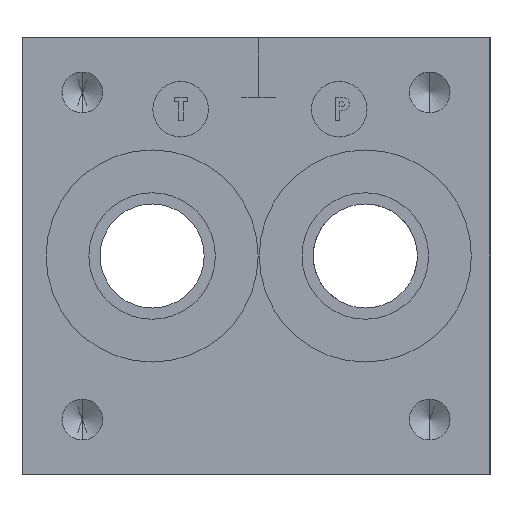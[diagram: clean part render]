
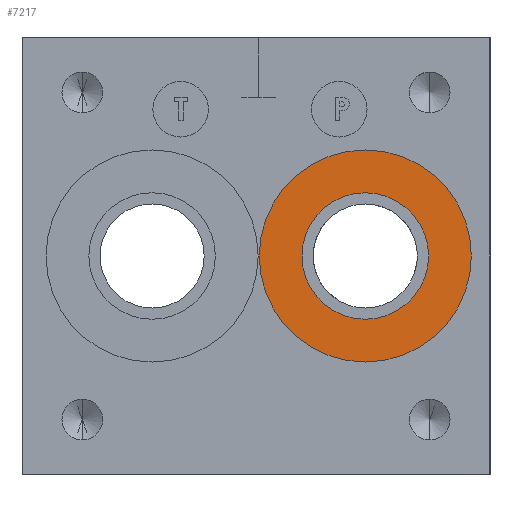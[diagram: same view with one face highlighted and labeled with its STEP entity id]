
A CAD part, left-side view. The second image highlights one B-rep face of the part: STEP entity #7217.
In plain terms, the highlighted planar face has unit normal (-1, 0, 0).
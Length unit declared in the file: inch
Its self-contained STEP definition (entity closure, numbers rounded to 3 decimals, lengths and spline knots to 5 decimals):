
#435 = EDGE_CURVE ( 'NONE', #41975, #33263, #39717, .T. ) ;
#1091 = DIRECTION ( 'NONE',  ( -1., 0., 0. ) ) ;
#1890 = CARTESIAN_POINT ( 'NONE',  ( 0.031, 0.786, 1.375 ) ) ;
#3209 = CARTESIAN_POINT ( 'NONE',  ( 0.031, 0.786, 2.0434 ) ) ;
#5194 = ORIENTED_EDGE ( 'NONE', *, *, #435, .T. ) ;
#7217 = ADVANCED_FACE ( 'NONE', ( #33914, #40741 ), #29587, .F. ) ;
#7311 = AXIS2_PLACEMENT_3D ( 'NONE', #10243, #10164, #10121 ) ;
#7664 = AXIS2_PLACEMENT_3D ( 'NONE', #21919, #1091, #25364 ) ;
#7776 = CARTESIAN_POINT ( 'NONE',  ( 0.031, 0.786, 0.97615 ) ) ;
#8168 = ORIENTED_EDGE ( 'NONE', *, *, #28351, .F. ) ;
#9539 = CARTESIAN_POINT ( 'NONE',  ( 0.031, 0.786, 1.375 ) ) ;
#10121 = DIRECTION ( 'NONE',  ( 0., 0., 1. ) ) ;
#10164 = DIRECTION ( 'NONE',  ( -1., 0., 0. ) ) ;
#10243 = CARTESIAN_POINT ( 'NONE',  ( 0.031, 0.786, 1.375 ) ) ;
#12439 = DIRECTION ( 'NONE',  ( 0., 0., -1. ) ) ;
#13085 = DIRECTION ( 'NONE',  ( 0., 0., 1. ) ) ;
#14871 = AXIS2_PLACEMENT_3D ( 'NONE', #1890, #33025, #12439 ) ;
#19748 = ORIENTED_EDGE ( 'NONE', *, *, #32101, .F. ) ;
#20113 = CARTESIAN_POINT ( 'NONE',  ( 0.031, 0.786, 1.375 ) ) ;
#21340 = CIRCLE ( 'NONE', #7664, 0.39885 ) ;
#21919 = CARTESIAN_POINT ( 'NONE',  ( 0.031, 0.786, 1.375 ) ) ;
#22612 = AXIS2_PLACEMENT_3D ( 'NONE', #20113, #43871, #23556 ) ;
#23556 = DIRECTION ( 'NONE',  ( 0., 0., 1. ) ) ;
#24329 = CARTESIAN_POINT ( 'NONE',  ( 0.031, 0.786, 0.7066 ) ) ;
#24848 = ORIENTED_EDGE ( 'NONE', *, *, #32951, .T. ) ;
#25364 = DIRECTION ( 'NONE',  ( 0., 0., 1. ) ) ;
#27965 = EDGE_LOOP ( 'NONE', ( #8168, #19748 ) ) ;
#28351 = EDGE_CURVE ( 'NONE', #43656, #32432, #38462, .T. ) ;
#29587 = PLANE ( 'NONE',  #14871 ) ;
#32101 = EDGE_CURVE ( 'NONE', #32432, #43656, #21340, .T. ) ;
#32432 = VERTEX_POINT ( 'NONE', #7776 ) ;
#32951 = EDGE_CURVE ( 'NONE', #33263, #41975, #37810, .T. ) ;
#33025 = DIRECTION ( 'NONE',  ( 1., 0., 0. ) ) ;
#33263 = VERTEX_POINT ( 'NONE', #3209 ) ;
#33662 = DIRECTION ( 'NONE',  ( -1., 0., 0. ) ) ;
#33914 = FACE_BOUND ( 'NONE', #27965, .T. ) ;
#37810 = CIRCLE ( 'NONE', #38790, 0.6684 ) ;
#38462 = CIRCLE ( 'NONE', #22612, 0.39885 ) ;
#38790 = AXIS2_PLACEMENT_3D ( 'NONE', #9539, #33662, #13085 ) ;
#39684 = EDGE_LOOP ( 'NONE', ( #24848, #5194 ) ) ;
#39717 = CIRCLE ( 'NONE', #7311, 0.6684 ) ;
#40741 = FACE_OUTER_BOUND ( 'NONE', #39684, .T. ) ;
#41975 = VERTEX_POINT ( 'NONE', #24329 ) ;
#43656 = VERTEX_POINT ( 'NONE', #44442 ) ;
#43871 = DIRECTION ( 'NONE',  ( -1., 0., 0. ) ) ;
#44442 = CARTESIAN_POINT ( 'NONE',  ( 0.031, 0.786, 1.77385 ) ) ;
